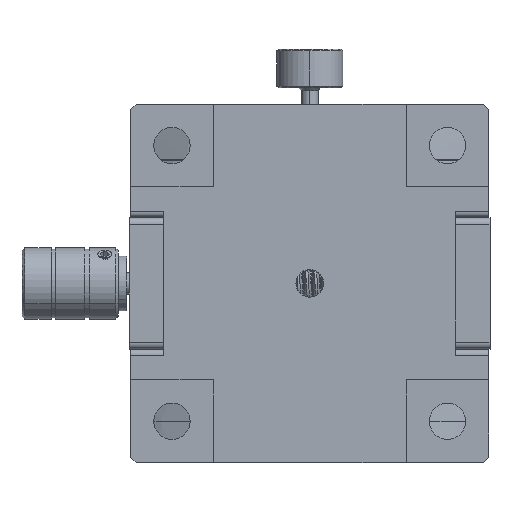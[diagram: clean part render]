
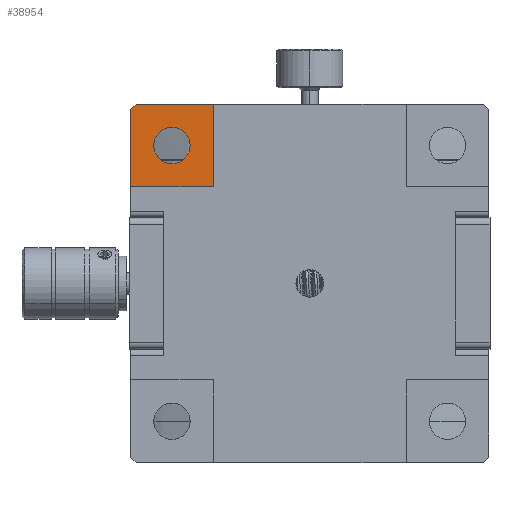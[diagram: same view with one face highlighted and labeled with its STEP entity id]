
A CAD part, top view. The second image highlights one B-rep face of the part: STEP entity #38954.
In plain terms, the highlighted planar face has unit normal (0, 0, 1).
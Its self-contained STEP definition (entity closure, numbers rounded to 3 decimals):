
#541 = CARTESIAN_POINT ( 'NONE',  ( -32.5, 17.5, 75. ) ) ;
#3590 = CARTESIAN_POINT ( 'NONE',  ( -32.5, -32.5, 75. ) ) ;
#3828 = DIRECTION ( 'NONE',  ( 1., 0., 0. ) ) ;
#4990 = DIRECTION ( 'NONE',  ( 1., 0., 0. ) ) ;
#5137 = DIRECTION ( 'NONE',  ( 0., 0., -1. ) ) ;
#5197 = EDGE_CURVE ( 'NONE', #11139, #37943, #40092, .T. ) ;
#6682 = FACE_BOUND ( 'NONE', #44156, .T. ) ;
#7187 = EDGE_CURVE ( 'NONE', #11139, #29827, #44112, .T. ) ;
#7191 = CARTESIAN_POINT ( 'NONE',  ( -25., 25., 75. ) ) ;
#8033 = LINE ( 'NONE', #37127, #12544 ) ;
#8250 = DIRECTION ( 'NONE',  ( -1., 0., 0. ) ) ;
#8558 = CARTESIAN_POINT ( 'NONE',  ( -17.5, 32.5, 75. ) ) ;
#9098 = EDGE_CURVE ( 'NONE', #39145, #31744, #47026, .T. ) ;
#9114 = EDGE_CURVE ( 'NONE', #18822, #29827, #18197, .T. ) ;
#9232 = CARTESIAN_POINT ( 'NONE',  ( -17.5, 17.5, 75. ) ) ;
#10047 = ORIENTED_EDGE ( 'NONE', *, *, #9114, .T. ) ;
#11139 = VERTEX_POINT ( 'NONE', #22387 ) ;
#11213 = ORIENTED_EDGE ( 'NONE', *, *, #7187, .F. ) ;
#12544 = VECTOR ( 'NONE', #33783, 1000. ) ;
#13131 = EDGE_LOOP ( 'NONE', ( #11213, #21489, #37426, #17642, #10047 ) ) ;
#13811 = VERTEX_POINT ( 'NONE', #541 ) ;
#13886 = ORIENTED_EDGE ( 'NONE', *, *, #27788, .T. ) ;
#14035 = VECTOR ( 'NONE', #31398, 1000. ) ;
#14579 = DIRECTION ( 'NONE',  ( 0., 0., 1. ) ) ;
#16883 = LINE ( 'NONE', #27150, #14035 ) ;
#17642 = ORIENTED_EDGE ( 'NONE', *, *, #45858, .T. ) ;
#17678 = FACE_OUTER_BOUND ( 'NONE', #13131, .T. ) ;
#18197 = LINE ( 'NONE', #29128, #21907 ) ;
#18822 = VERTEX_POINT ( 'NONE', #9232 ) ;
#19566 = CARTESIAN_POINT ( 'NONE',  ( -32.5, 32.5, 75. ) ) ;
#21150 = CARTESIAN_POINT ( 'NONE',  ( -32.5, 31.5, 75. ) ) ;
#21489 = ORIENTED_EDGE ( 'NONE', *, *, #5197, .T. ) ;
#21782 = DIRECTION ( 'NONE',  ( 0., 1., 0. ) ) ;
#21907 = VECTOR ( 'NONE', #21782, 1000. ) ;
#22387 = CARTESIAN_POINT ( 'NONE',  ( -31.5, 32.5, 75. ) ) ;
#25183 = EDGE_CURVE ( 'NONE', #13811, #37943, #8033, .T. ) ;
#25427 = CARTESIAN_POINT ( 'NONE',  ( -21.7, 25., 75. ) ) ;
#25566 = DIRECTION ( 'NONE',  ( -0.707, -0.707, 0. ) ) ;
#26278 = CIRCLE ( 'NONE', #46796, 3.3 ) ;
#26415 = VECTOR ( 'NONE', #4990, 1000. ) ;
#26512 = AXIS2_PLACEMENT_3D ( 'NONE', #7191, #32497, #36050 ) ;
#27150 = CARTESIAN_POINT ( 'NONE',  ( -32.5, 17.5, 75. ) ) ;
#27788 = EDGE_CURVE ( 'NONE', #31744, #39145, #26278, .T. ) ;
#29128 = CARTESIAN_POINT ( 'NONE',  ( -17.5, 32.5, 75. ) ) ;
#29285 = ORIENTED_EDGE ( 'NONE', *, *, #9098, .T. ) ;
#29827 = VERTEX_POINT ( 'NONE', #8558 ) ;
#30298 = CARTESIAN_POINT ( 'NONE',  ( -28.3, 25., 75. ) ) ;
#31398 = DIRECTION ( 'NONE',  ( 1., 0., 0. ) ) ;
#31744 = VERTEX_POINT ( 'NONE', #25427 ) ;
#32497 = DIRECTION ( 'NONE',  ( 0., 0., -1. ) ) ;
#33783 = DIRECTION ( 'NONE',  ( 0., 1., 0. ) ) ;
#36050 = DIRECTION ( 'NONE',  ( -1., 0., 0. ) ) ;
#36404 = CARTESIAN_POINT ( 'NONE',  ( -25., 25., 75. ) ) ;
#36973 = CARTESIAN_POINT ( 'NONE',  ( -64.5, -0.5, 75. ) ) ;
#37127 = CARTESIAN_POINT ( 'NONE',  ( -32.5, -32.5, 75. ) ) ;
#37426 = ORIENTED_EDGE ( 'NONE', *, *, #25183, .F. ) ;
#37943 = VERTEX_POINT ( 'NONE', #21150 ) ;
#38954 = ADVANCED_FACE ( 'NONE', ( #6682, #17678 ), #46740, .T. ) ;
#39145 = VERTEX_POINT ( 'NONE', #30298 ) ;
#40092 = LINE ( 'NONE', #36973, #42303 ) ;
#41550 = AXIS2_PLACEMENT_3D ( 'NONE', #3590, #14579, #3828 ) ;
#42303 = VECTOR ( 'NONE', #25566, 1000. ) ;
#44112 = LINE ( 'NONE', #19566, #26415 ) ;
#44156 = EDGE_LOOP ( 'NONE', ( #29285, #13886 ) ) ;
#45858 = EDGE_CURVE ( 'NONE', #13811, #18822, #16883, .T. ) ;
#46740 = PLANE ( 'NONE',  #41550 ) ;
#46796 = AXIS2_PLACEMENT_3D ( 'NONE', #36404, #5137, #8250 ) ;
#47026 = CIRCLE ( 'NONE', #26512, 3.3 ) ;
